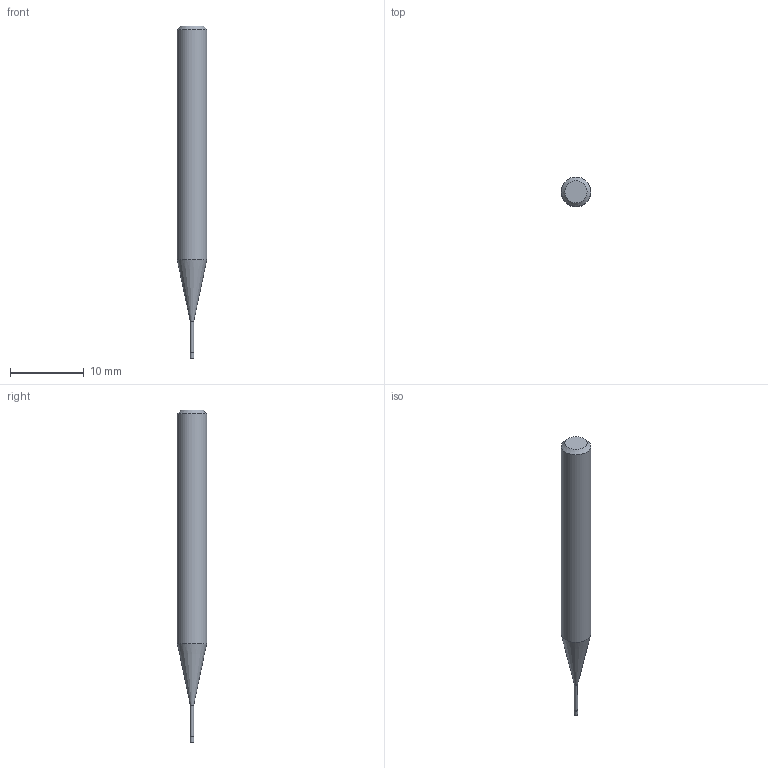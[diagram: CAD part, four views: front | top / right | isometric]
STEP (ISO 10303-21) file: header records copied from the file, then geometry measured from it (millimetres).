
FILE_DESCRIPTION((''),'2;1');
FILE_NAME('C:\Users\nsx150\AppData\Local\Temp\Mastercam 2021\17T8Q8S9EB\TEMP.step','2021-04-21T14:24:29',(''),(''),'STEP Write','Mastercam 2021 ... CNC Software, Inc.','');
FILE_SCHEMA(('AUTOMOTIVE_DESIGN'));
Length unit declared in the file: millimetre
Products named in the file (1): None
Bounding box: 4 x 4 x 45 mm (x, y, z)
Volume: 436.8 mm3; surface area: 474.1 mm2
Topology: 2 solids, 2 shells, 9 faces, 12 edges, 7 vertices
Faces by surface type: plane 4, cylinder 3, cone 2
Full cylindrical faces by diameter (mm): 0.46 x1, 0.5 x1, 4 x1
Entity records: 211 total; most frequent: DIRECTION 36, CARTESIAN_POINT 25, AXIS2_PLACEMENT_3D 18, ORIENTED_EDGE 14, EDGE_LOOP 14, STYLED_ITEM 12, ADVANCED_FACE 9, FACE_BOUND 8
